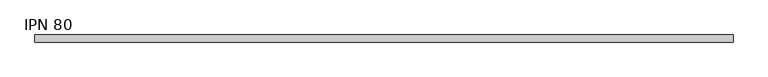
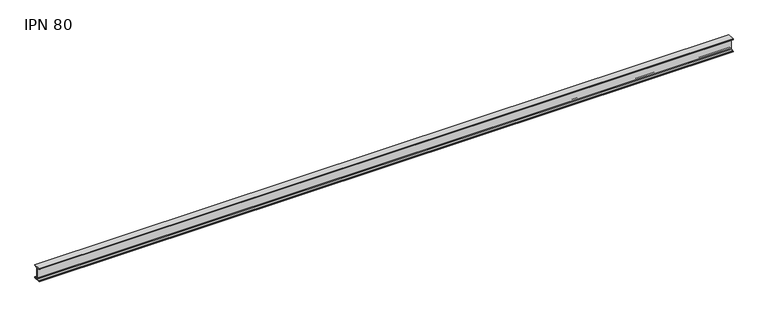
"""IFC4 building model written with IfcOpenShell, lengths in millimetres: beam geometry, IPN - Secciones en I con alas cónicas : IPN 80."""

from ifc_helpers import new_model, si_unit, point, frame, frame_2d, origin, place, context, project, spatial, polyline, circle_curve, trimmed, segment, composite_curve, outline, extrude, source, transform, mapped, element, save


def ipn_80_d2204184(model_context):
    return source(origin(), model_context, "Body", "SweptSolid", [
        extrude(outline(composite_curve([segment(polyline([(21.0, 40.0), (21.0, 37.5704306)]), True, "CONTINUOUS"), segment(trimmed(circle_curve(frame_2d((18.7, 37.5704306)), 2.3), [point((21.0, 37.5704306))], [point((19.01889, 35.2926446))], False, "CARTESIAN"), True, "CONTINUOUS"), segment(polyline([(19.01889, 35.2926446), (5.3092734, 33.3732983)]), True, "CONTINUOUS"), segment(trimmed(circle_curve(frame_2d((5.85, 29.5109655)), 3.9), [point((5.3092734, 33.3732983))], [point((1.95, 29.5109655))], True, "CARTESIAN"), True, "CONTINUOUS"), segment(polyline([(1.95, 29.5109655), (1.95, -29.5109655)]), True, "CONTINUOUS"), segment(trimmed(circle_curve(frame_2d((5.85, -29.5109655)), 3.9), [point((1.95, -29.5109655))], [point((5.3092734, -33.3732983))], True, "CARTESIAN"), True, "CONTINUOUS"), segment(polyline([(5.3092734, -33.3732983), (19.01889, -35.2926446)]), True, "CONTINUOUS"), segment(trimmed(circle_curve(frame_2d((18.7, -37.5704306)), 2.3), [point((19.01889, -35.2926446))], [point((21.0, -37.5704306))], False, "CARTESIAN"), True, "CONTINUOUS"), segment(polyline([(21.0, -37.5704306), (21.0, -40.0), (-21.0, -40.0), (-21.0, -37.5704306)]), True, "CONTINUOUS"), segment(trimmed(circle_curve(frame_2d((-18.7, -37.5704306)), 2.3), [point((-21.0, -37.5704306))], [point((-19.01889, -35.2926446))], False, "CARTESIAN"), True, "CONTINUOUS"), segment(polyline([(-19.01889, -35.2926446), (-5.3092734, -33.3732983)]), True, "CONTINUOUS"), segment(trimmed(circle_curve(frame_2d((-5.85, -29.5109655)), 3.9), [point((-5.3092734, -33.3732983))], [point((-1.95, -29.5109655))], True, "CARTESIAN"), True, "CONTINUOUS"), segment(polyline([(-1.95, -29.5109655), (-1.95, 29.5109655)]), True, "CONTINUOUS"), segment(trimmed(circle_curve(frame_2d((-5.85, 29.5109655)), 3.9), [point((-1.95, 29.5109655))], [point((-5.3092734, 33.3732983))], True, "CARTESIAN"), True, "CONTINUOUS"), segment(polyline([(-5.3092734, 33.3732983), (-19.01889, 35.2926446)]), True, "CONTINUOUS"), segment(trimmed(circle_curve(frame_2d((-18.7, 37.5704306)), 2.3), [point((-19.01889, 35.2926446))], [point((-21.0, 37.5704306))], False, "CARTESIAN"), True, "CONTINUOUS"), segment(polyline([(-21.0, 37.5704306), (-21.0, 40.0), (21.0, 40.0)]), True, "CONTINUOUS")], self_intersect=False)), frame((-2061.35, 0.0, 0.0), z_axis=(1.0, 0.0, 0.0), x_axis=(0.0, 1.0, 0.0)), (0.0, 0.0, 1.0), 4095.85),
    ])


if __name__ == "__main__":
    model = new_model("IFC4")
    model_context = context("Model", 3, world=origin())
    ifc_project = project(units=[si_unit("LENGTHUNIT", "METRE", prefix="MILLI")], contexts=[model_context])
    site = spatial("IfcSite", under=ifc_project)
    building = spatial("IfcBuilding", under=site)
    placement = place(None, origin())
    ipn_80_shape = ipn_80_d2204184(model_context)
    element("IfcBeam", 1, ObjectType="IPN - Secciones en I con alas cónicas : IPN 80", at=placement, inside=building, context=model_context, shape_type="MappedRepresentation", body=[
        mapped(ipn_80_shape, transform((0.0, 0.0, 0.0), x_axis=(1.0, 0.0, 0.0), y_axis=(0.0, 1.0, 0.0), z_axis=(0.0, 0.0, 1.0))),
    ])
    save(model, "model.ifc")
